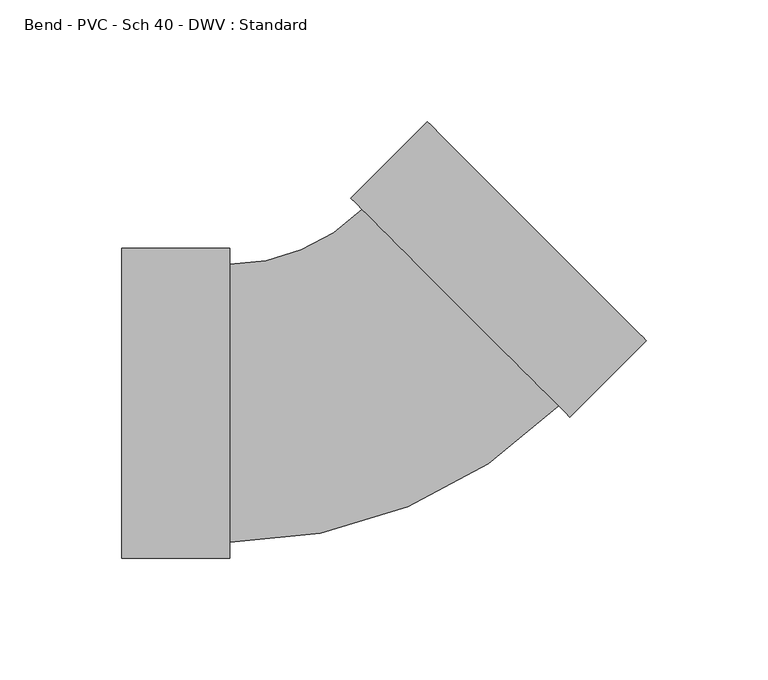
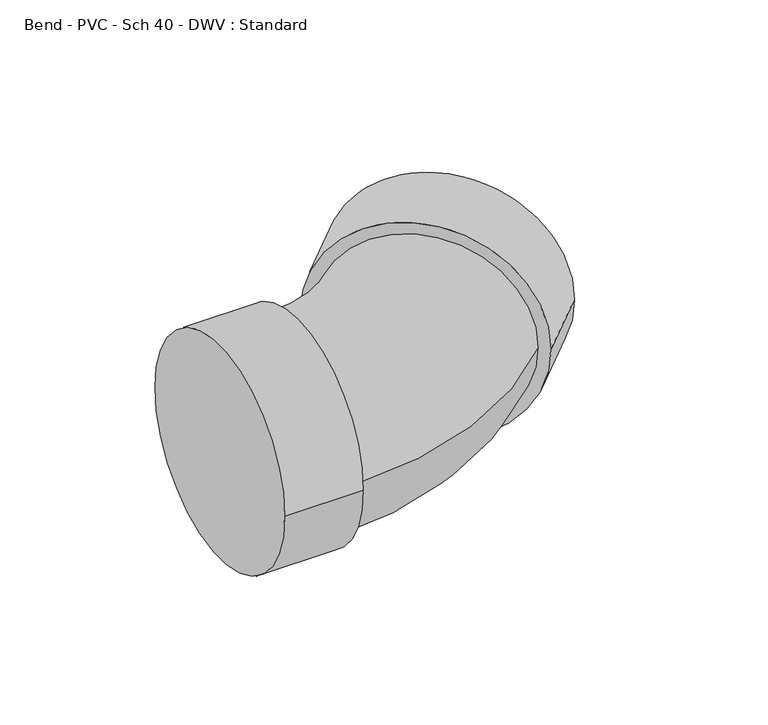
"""IFC4 building model written with IfcOpenShell, lengths in millimetres: pipe fitting geometry, Bend - PVC - Sch 40 - DWV : Standard."""

from ifc_helpers import new_model, si_unit, point, frame, origin, place, context, project, spatial, circle_curve, ellipse_curve, trimmed, source, transform, mapped, element, save
from ifc_brep_helpers import plane_surface, cylinder_surface, revolved_surface, advanced_brep


def bend_pvc_sch_40_dwv_standard_5a2406ae(model_context):
    return source(origin(), model_context, "Body", "AdvancedBrep", [
        advanced_brep(
        [(-100.0252, -63.754, 0.0), (-100.0252, 63.754, 0.0), (-55.5752, -63.754, 0.0), (-55.5752, 63.754, 0.0), (-55.5752, -57.15, 0.0), (-55.5752, 57.15, 0.0), (-1.109686, 79.7088072, 0.0), (79.7086992, -1.1174175, 0.0), (84.3782059, -5.7873772, 0.0), (-5.7791927, 84.3787669, 0.0), (115.8106267, 25.6419949, 0.0), (25.653228, 115.8081389, 0.0)],
        [
            (0, 1, circle_curve(frame((-100.0252, 0.0, 0.0), z_axis=(-1.0, 0.0, 0.0), x_axis=(0.0, 1.0, 0.0)), 63.754)),
            (1, 0, circle_curve(frame((-100.0252, 0.0, 0.0), z_axis=(-1.0, 0.0, 0.0), x_axis=(0.0, 1.0, 0.0)), 63.754)),
            (2, 3, circle_curve(frame((-55.5752, 0.0, 0.0), z_axis=(1.0, 0.0, 0.0), x_axis=(0.0, 1.0, 0.0)), 63.754)),
            (3, 2, circle_curve(frame((-55.5752, 0.0, 0.0), z_axis=(1.0, 0.0, 0.0), x_axis=(0.0, 1.0, 0.0)), 63.754)),
            (4, 5, circle_curve(frame((-55.5752, 0.0, 0.0), z_axis=(-1.0, 0.0, 0.0), x_axis=(0.0, 1.0, 0.0)), 57.15)),
            (5, 4, circle_curve(frame((-55.5752, 0.0, 0.0), z_axis=(-1.0, 0.0, 0.0), x_axis=(0.0, 1.0, 0.0)), 57.15)),
            (0, 2),
            (3, 1),
            (6, 5, circle_curve(frame((-55.5752, 134.1796045, 0.0), z_axis=(0.0, 0.0, -1.0), x_axis=(0.0, -1.0, 0.0)), 77.0296045)),
            (4, 7, circle_curve(frame((-55.5752, 134.1796045, 0.0), z_axis=(0.0, 0.0, 1.0), x_axis=(0.0, -1.0, 0.0)), 191.3296045)),
            (7, 6, circle_curve(frame((39.2995066, 39.2956949, 0.0), z_axis=(-0.7071410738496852, -0.7070724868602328, 0.0), x_axis=(-0.7070724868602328, 0.7071410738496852, 0.0)), 57.15)),
            (6, 7, circle_curve(frame((39.2995066, 39.2956949, 0.0), z_axis=(-0.7071410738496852, -0.7070724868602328, 0.0), x_axis=(-0.7070724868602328, 0.7071410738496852, 0.0)), 57.15)),
            (8, 9, circle_curve(frame((39.2995066, 39.2956949, 0.0), z_axis=(-0.7071410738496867, -0.7070724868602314, 0.0), x_axis=(-0.7070724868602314, 0.7071410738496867, 0.0)), 63.754)),
            (9, 8, circle_curve(frame((39.2995066, 39.2956949, 0.0), z_axis=(-0.7071410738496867, -0.7070724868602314, 0.0), x_axis=(-0.7070724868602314, 0.7071410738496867, 0.0)), 63.754)),
            (10, 11, circle_curve(frame((70.7319273, 70.7250669, 0.0), z_axis=(0.7071410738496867, 0.7070724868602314, 0.0), x_axis=(-0.7070724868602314, 0.7071410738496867, 0.0)), 63.754)),
            (11, 10, circle_curve(frame((70.7319273, 70.7250669, 0.0), z_axis=(0.7071410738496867, 0.7070724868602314, 0.0), x_axis=(-0.7070724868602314, 0.7071410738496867, 0.0)), 63.754)),
            (8, 10),
            (11, 9),
        ],
        [
            plane_surface(frame((-100.0252, 0.0, 0.0), z_axis=(-1.0, 0.0, 0.0), x_axis=(0.0, 0.0, 1.0))),
            plane_surface(frame((-55.5752, 0.0, 0.0), z_axis=(1.0, 0.0, 0.0), x_axis=(0.0, 0.0, 1.0))),
            cylinder_surface(frame((-100.0252, 0.0, 0.0), z_axis=(-1.0, 0.0, 0.0), x_axis=(0.0, 1.0, 0.0)), 63.754),
            revolved_surface(trimmed(ellipse_curve(frame((-55.5752, 0.0, 0.0), z_axis=(-1.0, 0.0, 0.0), x_axis=(0.0, 1.0, 0.0)), 57.15, 57.15), [point((-55.5752, -57.15, 0.0))], [point((-55.5752, 57.15, 0.0))], True, "CARTESIAN"), (-55.5752, 134.1796045, 0.0), (0.0, 0.0, 1.0)),
            revolved_surface(trimmed(ellipse_curve(frame((-55.5752, 0.0, 0.0), z_axis=(-1.0, 0.0, 0.0), x_axis=(0.0, 1.0, 0.0)), 57.15, 57.15), [point((-55.5752, 57.15, 0.0))], [point((-55.5752, -57.15, 0.0))], True, "CARTESIAN"), (-55.5752, 134.1796045, 0.0), (0.0, 0.0, 1.0)),
            plane_surface(frame((39.2995066, 39.2956949, 0.0), z_axis=(-0.7071410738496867, -0.7070724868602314, 0.0), x_axis=(0.0, 0.0, 1.0))),
            plane_surface(frame((70.7319273, 70.7250669, 0.0), z_axis=(0.7071410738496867, 0.7070724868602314, 0.0), x_axis=(0.0, 0.0, 1.0))),
            cylinder_surface(frame((39.2995066, 39.2956949, 0.0), z_axis=(-0.7071410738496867, -0.7070724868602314, 0.0), x_axis=(-0.7070724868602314, 0.7071410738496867, 0.0)), 63.754),
        ],
        [
            (0, [[1, 2]]),
            (1, [[3, 4], [5, 6]]),
            (2, [[-1, 7, -4, 8]]),
            (2, [[-2, -8, -3, -7]]),
            (3, [[9, -5, 10, 11]]),
            (4, [[-9, 12, -10, -6]]),
            (5, [[13, 14], [-11, -12]]),
            (6, [[15, 16]]),
            (7, [[-13, 17, -16, 18]]),
            (7, [[-14, -18, -15, -17]]),
        ],
    ),
    ])


if __name__ == "__main__":
    model = new_model("IFC4")
    model_context = context("Model", 3, world=origin())
    ifc_project = project(units=[si_unit("LENGTHUNIT", "METRE", prefix="MILLI")], contexts=[model_context])
    site = spatial("IfcSite", under=ifc_project)
    building = spatial("IfcBuilding", under=site)
    placement = place(None, origin())
    bend_pvc_sch_40_dwv_standard_shape = bend_pvc_sch_40_dwv_standard_5a2406ae(model_context)
    element("IfcPipeFitting", 1, ObjectType="Bend - PVC - Sch 40 - DWV : Standard", at=placement, inside=building, context=model_context, shape_type="MappedRepresentation", body=[
        mapped(bend_pvc_sch_40_dwv_standard_shape, transform((0.0, 0.0, 0.0), x_axis=(1.0, 0.0, 0.0), y_axis=(0.0, 1.0, 0.0), z_axis=(0.0, 0.0, 1.0))),
    ])
    save(model, "model.ifc")
